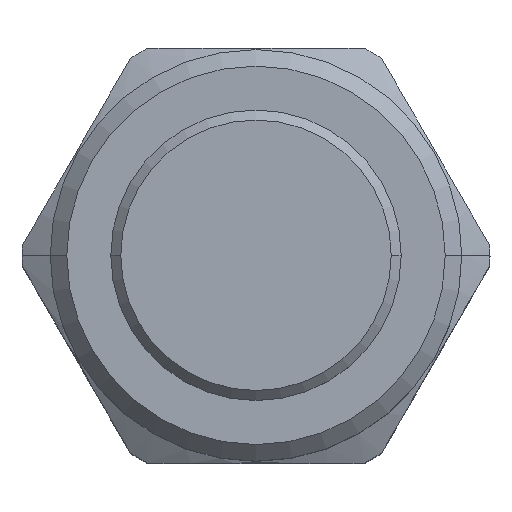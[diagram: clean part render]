
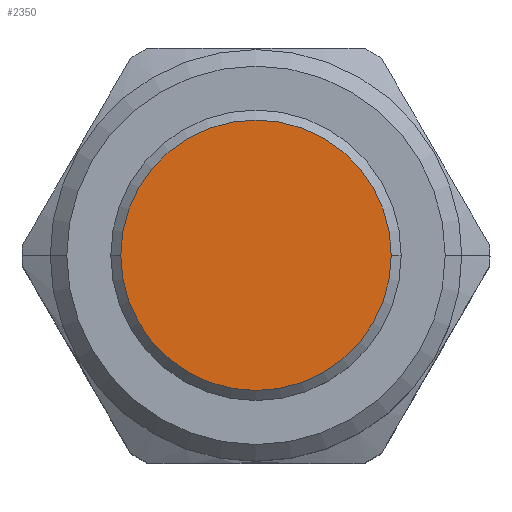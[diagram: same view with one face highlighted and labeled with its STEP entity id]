
A CAD part, top view. The second image highlights one B-rep face of the part: STEP entity #2350.
In plain terms, the highlighted planar face has unit normal (0, 0, 1).
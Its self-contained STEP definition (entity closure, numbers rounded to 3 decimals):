
#906=CARTESIAN_POINT('',(0.,0.,56.21));
#907=DIRECTION('',(0.,0.,-1.));
#908=DIRECTION('',(-1.,0.,0.));
#909=AXIS2_PLACEMENT_3D('',#906,#907,#908);
#911=CARTESIAN_POINT('',(0.,0.,56.21));
#912=DIRECTION('',(0.,0.,-1.));
#913=DIRECTION('',(1.,0.,0.));
#914=AXIS2_PLACEMENT_3D('',#911,#912,#913);
#1123=CARTESIAN_POINT('',(10.351,0.,56.21));
#1124=CARTESIAN_POINT('',(-10.351,0.,56.21));
#1125=VERTEX_POINT('',#1123);
#1126=VERTEX_POINT('',#1124);
#2340=CARTESIAN_POINT('',(0.,0.,56.21));
#2341=DIRECTION('',(0.,0.,1.));
#2342=DIRECTION('',(1.,0.,0.));
#2343=AXIS2_PLACEMENT_3D('',#2340,#2341,#2342);
#2344=PLANE('',#2343);
#2346=ORIENTED_EDGE('',*,*,#2345,.T.);
#2347=ORIENTED_EDGE('',*,*,#2330,.T.);
#2348=EDGE_LOOP('',(#2346,#2347));
#2349=FACE_OUTER_BOUND('',#2348,.F.);
#2350=ADVANCED_FACE('',(#2349),#2344,.T.);
#910=CIRCLE('',#909,10.351);
#915=CIRCLE('',#914,10.351);
#2330=EDGE_CURVE('',#1125,#1126,#915,.T.);
#2345=EDGE_CURVE('',#1126,#1125,#910,.T.);
